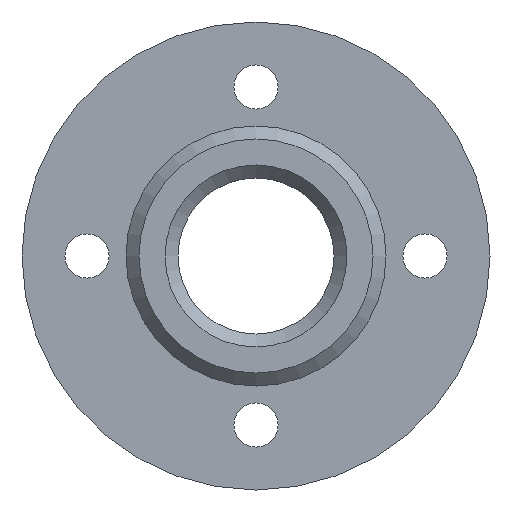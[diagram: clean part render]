
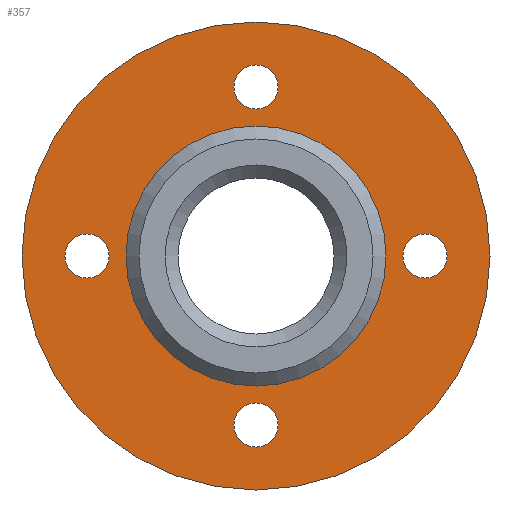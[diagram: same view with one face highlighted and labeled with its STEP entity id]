
A CAD part, front view. The second image highlights one B-rep face of the part: STEP entity #357.
In plain terms, the highlighted planar face has unit normal (0, -1, 0).
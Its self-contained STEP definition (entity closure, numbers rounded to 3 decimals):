
#70=FACE_BOUND('',#129,.T.);
#71=FACE_BOUND('',#130,.T.);
#72=FACE_BOUND('',#131,.T.);
#73=FACE_BOUND('',#132,.T.);
#74=FACE_BOUND('',#133,.T.);
#96=FACE_OUTER_BOUND('',#128,.T.);
#128=EDGE_LOOP('',(#323));
#129=EDGE_LOOP('',(#324));
#130=EDGE_LOOP('',(#325));
#131=EDGE_LOOP('',(#326));
#132=EDGE_LOOP('',(#327));
#133=EDGE_LOOP('',(#328));
#137=CIRCLE('',#387,1.7);
#141=CIRCLE('',#394,1.7);
#145=CIRCLE('',#401,1.7);
#149=CIRCLE('',#408,1.7);
#158=CIRCLE('',#422,18.);
#163=CIRCLE('',#431,10.);
#167=VERTEX_POINT('',#565);
#171=VERTEX_POINT('',#578);
#175=VERTEX_POINT('',#591);
#179=VERTEX_POINT('',#604);
#188=VERTEX_POINT('',#631);
#193=VERTEX_POINT('',#648);
#199=EDGE_CURVE('',#167,#167,#137,.T.);
#205=EDGE_CURVE('',#171,#171,#141,.T.);
#211=EDGE_CURVE('',#175,#175,#145,.T.);
#217=EDGE_CURVE('',#179,#179,#149,.T.);
#229=EDGE_CURVE('',#188,#188,#158,.T.);
#238=EDGE_CURVE('',#193,#193,#163,.T.);
#323=ORIENTED_EDGE('',*,*,#229,.T.);
#324=ORIENTED_EDGE('',*,*,#199,.T.);
#325=ORIENTED_EDGE('',*,*,#205,.T.);
#326=ORIENTED_EDGE('',*,*,#211,.T.);
#327=ORIENTED_EDGE('',*,*,#217,.T.);
#328=ORIENTED_EDGE('',*,*,#238,.F.);
#335=PLANE('',#432);
#357=ADVANCED_FACE('',(#96,#70,#71,#72,#73,#74),#335,.T.);
#387=AXIS2_PLACEMENT_3D('',#567,#449,#450);
#394=AXIS2_PLACEMENT_3D('',#580,#465,#466);
#401=AXIS2_PLACEMENT_3D('',#593,#481,#482);
#408=AXIS2_PLACEMENT_3D('',#606,#497,#498);
#422=AXIS2_PLACEMENT_3D('',#632,#528,#529);
#431=AXIS2_PLACEMENT_3D('',#650,#550,#551);
#432=AXIS2_PLACEMENT_3D('',#651,#552,#553);
#449=DIRECTION('center_axis',(0.,1.,0.));
#450=DIRECTION('ref_axis',(0.,0.,-1.));
#465=DIRECTION('center_axis',(0.,1.,0.));
#466=DIRECTION('ref_axis',(-1.,0.,0.));
#481=DIRECTION('center_axis',(0.,1.,0.));
#482=DIRECTION('ref_axis',(0.,0.,1.));
#497=DIRECTION('center_axis',(0.,1.,0.));
#498=DIRECTION('ref_axis',(1.,0.,0.));
#528=DIRECTION('center_axis',(0.,-1.,0.));
#529=DIRECTION('ref_axis',(1.,0.,0.));
#550=DIRECTION('center_axis',(0.,-1.,0.));
#551=DIRECTION('ref_axis',(1.,0.,0.));
#552=DIRECTION('center_axis',(0.,-1.,0.));
#553=DIRECTION('ref_axis',(0.,0.,-1.));
#565=CARTESIAN_POINT('',(-13.,-7.,1.7));
#567=CARTESIAN_POINT('Origin',(-13.,-7.,0.));
#578=CARTESIAN_POINT('',(1.7,-7.,13.));
#580=CARTESIAN_POINT('Origin',(0.,-7.,13.));
#591=CARTESIAN_POINT('',(13.,-7.,-1.7));
#593=CARTESIAN_POINT('Origin',(13.,-7.,0.));
#604=CARTESIAN_POINT('',(-1.7,-7.,-13.));
#606=CARTESIAN_POINT('Origin',(0.,-7.,-13.));
#631=CARTESIAN_POINT('',(-18.,-7.,0.));
#632=CARTESIAN_POINT('Origin',(0.,-7.,0.));
#648=CARTESIAN_POINT('',(-10.,-7.,0.));
#650=CARTESIAN_POINT('Origin',(0.,-7.,0.));
#651=CARTESIAN_POINT('Origin',(10.,-7.,0.));
